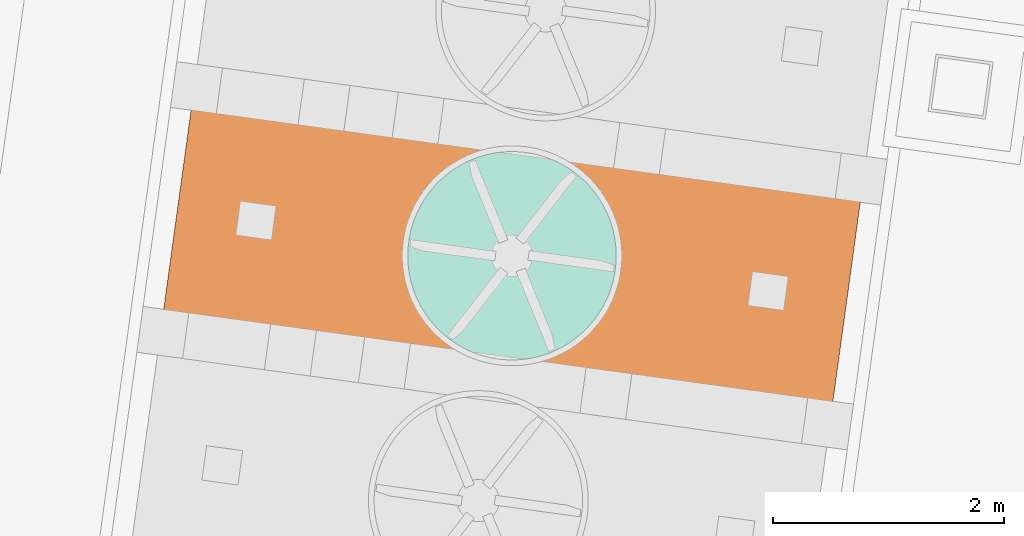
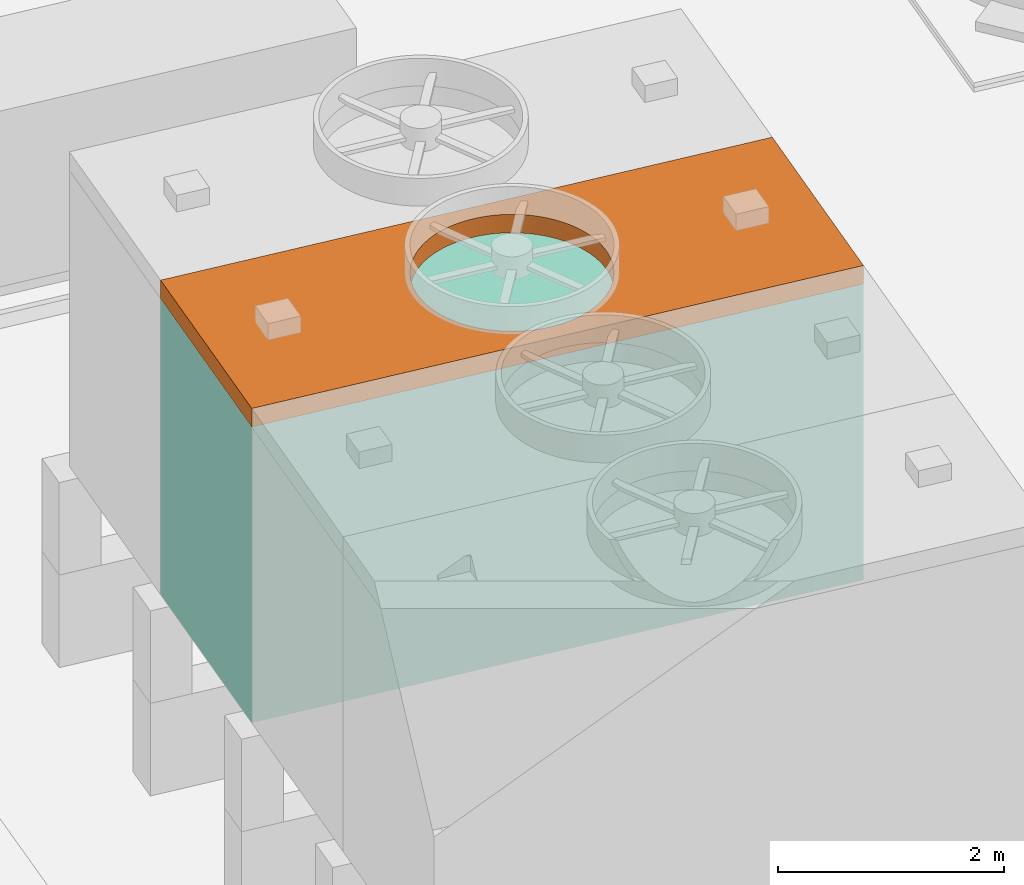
# Not in any storey, part 42 of 75: 1 proxy, plus 1 element that does not belong to this part.
"""IFC4 model written with IfcOpenShell, lengths in metres."""

from ifc_helpers import new_model, si_unit, direction, origin_with_axes, place, context, subcontext, project, spatial, triangles, element, aggregate, save


model = new_model("IFC4")

# Units and contexts
model_context = context("Model", 3, precision=1e-05, world=origin_with_axes(), true_north=direction((0.0, 1.0)))
body_context = subcontext(model_context, "Body", "Model", "MODEL_VIEW")
ifc_project = project(units=[si_unit("AREAUNIT", "SQUARE_METRE"), si_unit("VOLUMEUNIT", "CUBIC_METRE"), si_unit("LENGTHUNIT", "METRE")], contexts=[model_context])

# Site
site_placement = place(None, origin_with_axes())
site = spatial("IfcSite", under=ifc_project, at=site_placement, Name="Parcela industrial Jinhong")

# Cooling tower, proxy
cooling_tower_placement = place(site_placement, origin_with_axes())
cooling_tower = element("IfcCoolingTower", 1, at=cooling_tower_placement, inside=site, Name="Torre de refrigeración WT3001B · Envolvente del cuerpo de la torre", ObjectType="Envolvente de equipo", PredefinedType="USERDEFINED", context=body_context, shape_type="Tessellation", body=[
    triangles([(42.240363, 46.344292, 6.3), (36.736357, 49.261142, 6.3), (36.44488, 47.141085, 6.3), (36.736357, 49.261142, 3.1), (42.240363, 46.344292, 3.1), (36.44488, 47.141085, 3.1), (42.53184, 48.464349, 6.3), (42.53184, 48.464349, 3.1)], [[1, 2, 3], [4, 5, 6], [1, 7, 2], [5, 4, 8], [5, 8, 7], [5, 7, 1], [8, 4, 2], [7, 8, 2], [3, 4, 6], [4, 3, 2], [6, 5, 1], [3, 6, 1]], closed=True),
])
proxy_placement = place(cooling_tower_placement, origin_with_axes())
proxy = element("IfcBuildingElementProxy", 2, at=proxy_placement, Name="Torre de refrigeración WT3001B · Plataforma superior con hueco de ventilador", context=body_context, shape_type="Tessellation", body=[
    triangles([(38.598908, 47.954805, 6.5), (36.44488, 47.141085, 6.5), (38.594408, 47.925622, 6.5), (36.44488, 47.141085, 6.3), (38.598908, 47.954805, 6.3), (38.594408, 47.925622, 6.3), (38.590866, 47.896307, 6.5), (38.590866, 47.896307, 6.3), (36.736357, 49.261142, 6.5), (36.736357, 49.261142, 6.3), (38.588284, 47.866891, 6.5), (38.588284, 47.866891, 6.3), (38.604361, 47.983826, 6.5), (38.604361, 47.983826, 6.3), (38.586666, 47.837407, 6.5), (38.586666, 47.837407, 6.3), (38.61076, 48.012653, 6.5), (38.61076, 48.012653, 6.3), (38.586014, 47.807886, 6.5), (38.586014, 47.807886, 6.3), (38.618099, 48.041254, 6.5), (38.618099, 48.041254, 6.3), (38.586328, 47.77836, 6.5), (38.586328, 47.77836, 6.3), (38.626369, 48.069601, 6.5), (38.626369, 48.069601, 6.3), (38.587608, 47.748859, 6.5), (38.587608, 47.748859, 6.3), (38.635563, 48.097662, 6.5), (38.635563, 48.097662, 6.3), (38.589852, 47.719416, 6.5), (38.589852, 47.719416, 6.3), (38.64567, 48.125406, 6.5), (38.64567, 48.125406, 6.3), (38.593059, 47.690062, 6.5), (38.593059, 47.690062, 6.3), (38.656679, 48.152806, 6.5), (38.656679, 48.152806, 6.3), (38.597224, 47.660829, 6.5), (38.597224, 47.660829, 6.3), (38.668579, 48.17983, 6.5), (38.668579, 48.17983, 6.3), (38.602344, 47.631748, 6.5), (38.602344, 47.631748, 6.3), (38.681357, 48.206451, 6.5), (38.681357, 48.206451, 6.3), (38.608412, 47.60285, 6.5), (38.608412, 47.60285, 6.3), (38.694999, 48.232639, 6.5), (38.694999, 48.232639, 6.3), (38.615423, 47.574166, 6.5), (38.615423, 47.574166, 6.3), (38.70949, 48.258367, 6.5), (38.70949, 48.258367, 6.3), (38.623368, 47.545726, 6.5), (38.623368, 47.545726, 6.3), (38.724816, 48.283607, 6.5), (38.724816, 48.283607, 6.3), (38.63224, 47.517562, 6.5), (38.63224, 47.517562, 6.3), (38.740959, 48.308332, 6.5), (38.740959, 48.308332, 6.3), (38.642028, 47.489704, 6.5), (38.642028, 47.489704, 6.3), (38.757902, 48.332515, 6.5), (38.757902, 48.332515, 6.3), (38.652723, 47.46218, 6.5), (38.652723, 47.46218, 6.3), (38.775628, 48.356131, 6.5), (38.775628, 48.356131, 6.3), (38.664312, 47.435021, 6.5), (38.664312, 47.435021, 6.3), (38.794117, 48.379155, 6.5), (38.794117, 48.379155, 6.3), (38.676784, 47.408256, 6.5), (38.676784, 47.408256, 6.3), (38.813349, 48.401561, 6.5), (38.813349, 48.401561, 6.3), (38.690125, 47.381913, 6.5), (38.690125, 47.381913, 6.3), (38.833304, 48.423327, 6.5), (38.833304, 48.423327, 6.3), (38.704321, 47.356021, 6.5), (38.704321, 47.356021, 6.3), (38.85396, 48.444427, 6.5), (38.85396, 48.444427, 6.3), (38.719356, 47.330607, 6.5), (38.719356, 47.330607, 6.3), (38.875296, 48.46484, 6.5), (38.875296, 48.46484, 6.3), (38.735215, 47.305698, 6.5), (38.735215, 47.305698, 6.3), (38.897289, 48.484545, 6.5), (38.897289, 48.484545, 6.3), (38.75188, 47.281322, 6.5), (38.75188, 47.281322, 6.3), (38.919914, 48.503519, 6.5), (38.919914, 48.503519, 6.3), (38.769334, 47.257505, 6.5), (38.769334, 47.257505, 6.3), (38.943148, 48.521743, 6.5), (38.943148, 48.521743, 6.3), (38.787558, 47.234271, 6.5), (38.787558, 47.234271, 6.3), (38.966966, 48.539197, 6.5), (38.966966, 48.539197, 6.3), (38.806532, 47.211645, 6.5), (38.806532, 47.211645, 6.3), (38.991342, 48.555862, 6.5), (38.991342, 48.555862, 6.3), (38.826236, 47.189653, 6.5), (38.826236, 47.189653, 6.3), (39.01625, 48.571721, 6.5), (39.01625, 48.571721, 6.3), (38.84665, 47.168317, 6.5), (38.84665, 47.168317, 6.3), (39.041664, 48.586756, 6.5), (39.041664, 48.586756, 6.3), (38.86775, 47.147661, 6.5), (38.86775, 47.147661, 6.3), (39.067556, 48.600952, 6.5), (39.067556, 48.600952, 6.3), (38.889515, 47.127706, 6.5), (38.889515, 47.127706, 6.3), (39.093899, 48.614293, 6.5), (39.093899, 48.614293, 6.3), (38.911922, 47.108473, 6.5), (38.911922, 47.108473, 6.3), (39.120664, 48.626765, 6.5), (39.120664, 48.626765, 6.3), (38.934945, 47.089985, 6.5), (38.934945, 47.089985, 6.3), (39.147823, 48.638354, 6.5), (39.147823, 48.638354, 6.3), (38.958562, 47.072259, 6.5), (38.958562, 47.072259, 6.3), (39.175347, 48.649049, 6.5), (39.175347, 48.649049, 6.3), (38.982745, 47.055316, 6.5), (38.982745, 47.055316, 6.3), (39.203206, 48.658837, 6.5), (39.203206, 48.658837, 6.3), (39.00747, 47.039172, 6.5), (39.00747, 47.039172, 6.3), (39.23137, 48.667709, 6.5), (39.23137, 48.667709, 6.3), (39.03271, 47.023847, 6.5), (39.03271, 47.023847, 6.3), (39.259809, 48.675654, 6.5), (39.259809, 48.675654, 6.3), (39.058438, 47.009356, 6.5), (39.058438, 47.009356, 6.3), (39.288493, 48.682665, 6.5), (39.288493, 48.682665, 6.3), (39.084626, 46.995714, 6.5), (39.084626, 46.995714, 6.3), (39.317391, 48.688733, 6.5), (39.317391, 48.688733, 6.3), (39.111247, 46.982936, 6.5), (39.111247, 46.982936, 6.3), (39.346472, 48.693852, 6.5), (39.346472, 48.693852, 6.3), (39.138271, 46.971036, 6.5), (39.138271, 46.971036, 6.3), (39.375705, 48.698018, 6.5), (39.375705, 48.698018, 6.3), (39.16567, 46.960027, 6.5), (39.16567, 46.960027, 6.3), (39.405059, 48.701224, 6.5), (39.405059, 48.701224, 6.3), (39.193415, 46.94992, 6.5), (39.193415, 46.94992, 6.3), (39.434502, 48.703469, 6.5), (39.434502, 48.703469, 6.3), (39.221476, 46.940726, 6.5), (39.221476, 46.940726, 6.3), (39.464003, 48.704749, 6.5), (39.464003, 48.704749, 6.3), (39.249822, 46.932455, 6.5), (39.249822, 46.932455, 6.3), (39.493529, 48.705063, 6.5), (39.493529, 48.705063, 6.3), (39.278424, 46.925117, 6.5), (39.278424, 46.925117, 6.3), (39.523051, 48.70441, 6.5), (39.523051, 48.70441, 6.3), (39.307251, 46.918718, 6.5), (39.307251, 46.918718, 6.3), (39.552535, 48.702793, 6.5), (39.552535, 48.702793, 6.3), (39.336271, 46.913265, 6.5), (39.336271, 46.913265, 6.3), (42.53184, 48.464349, 6.5), (42.53184, 48.464349, 6.3), (39.365455, 46.908765, 6.5), (39.365455, 46.908765, 6.3), (39.58195, 48.700211, 6.5), (39.58195, 48.700211, 6.3), (39.39477, 46.905223, 6.5), (39.39477, 46.905223, 6.3), (39.611265, 48.696668, 6.5), (39.611265, 48.696668, 6.3), (39.424185, 46.902641, 6.5), (39.424185, 46.902641, 6.3), (39.640449, 48.692168, 6.5), (39.640449, 48.692168, 6.3), (42.240363, 46.344292, 6.5), (42.240363, 46.344292, 6.3), (39.669469, 48.686716, 6.5), (39.669469, 48.686716, 6.3), (39.453669, 46.901023, 6.5), (39.453669, 46.901023, 6.3), (39.698296, 48.680317, 6.5), (39.698296, 48.680317, 6.3), (39.48319, 46.900371, 6.5), (39.48319, 46.900371, 6.3), (39.726898, 48.672978, 6.5), (39.726898, 48.672978, 6.3), (39.512717, 46.900685, 6.5), (39.512717, 46.900685, 6.3), (39.755244, 48.664707, 6.5), (39.755244, 48.664707, 6.3), (39.542218, 46.901965, 6.5), (39.542218, 46.901965, 6.3), (39.783305, 48.655514, 6.5), (39.783305, 48.655514, 6.3), (39.571661, 46.904209, 6.5), (39.571661, 46.904209, 6.3), (39.81105, 48.645407, 6.5), (39.81105, 48.645407, 6.3), (39.601014, 46.907416, 6.5), (39.601014, 46.907416, 6.3), (39.838449, 48.634397, 6.5), (39.838449, 48.634397, 6.3), (39.630248, 46.911581, 6.5), (39.630248, 46.911581, 6.3), (39.865473, 48.622498, 6.5), (39.865473, 48.622498, 6.3), (39.659329, 46.916701, 6.5), (39.659329, 46.916701, 6.3), (39.892094, 48.60972, 6.5), (39.892094, 48.60972, 6.3), (39.688227, 46.922769, 6.5), (39.688227, 46.922769, 6.3), (39.918282, 48.596078, 6.5), (39.918282, 48.596078, 6.3), (39.716911, 46.929779, 6.5), (39.716911, 46.929779, 6.3), (39.94401, 48.581587, 6.5), (39.94401, 48.581587, 6.3), (39.74535, 46.937725, 6.5), (39.74535, 46.937725, 6.3), (39.96925, 48.566261, 6.5), (39.96925, 48.566261, 6.3), (39.773514, 46.946596, 6.5), (39.773514, 46.946596, 6.3), (39.993975, 48.550118, 6.5), (39.993975, 48.550118, 6.3), (39.801373, 46.956385, 6.5), (39.801373, 46.956385, 6.3), (40.018158, 48.533175, 6.5), (40.018158, 48.533175, 6.3), (39.828897, 46.967079, 6.5), (39.828897, 46.967079, 6.3), (40.041775, 48.515449, 6.5), (40.041775, 48.515449, 6.3), (39.856056, 46.978669, 6.5), (39.856056, 46.978669, 6.3), (40.064798, 48.49696, 6.5), (40.064798, 48.49696, 6.3), (39.882821, 46.991141, 6.5), (39.882821, 46.991141, 6.3), (40.087205, 48.477728, 6.5), (40.087205, 48.477728, 6.3), (39.909164, 47.004482, 6.5), (39.909164, 47.004482, 6.3), (40.10897, 48.457773, 6.5), (40.10897, 48.457773, 6.3), (39.935056, 47.018677, 6.5), (39.935056, 47.018677, 6.3), (40.13007, 48.437116, 6.5), (40.13007, 48.437116, 6.3), (39.96047, 47.033713, 6.5), (39.96047, 47.033713, 6.3), (39.985378, 47.049571, 6.5), (39.985378, 47.049571, 6.3), (40.150484, 48.41578, 6.5), (40.150484, 48.41578, 6.3), (40.009754, 47.066237, 6.5), (40.009754, 47.066237, 6.3), (40.170188, 48.393788, 6.5), (40.170188, 48.393788, 6.3), (40.033572, 47.083691, 6.5), (40.033572, 47.083691, 6.3), (40.189162, 48.371163, 6.5), (40.189162, 48.371163, 6.3), (40.056806, 47.101914, 6.5), (40.056806, 47.101914, 6.3), (40.207386, 48.347929, 6.5), (40.207386, 48.347929, 6.3), (40.079431, 47.120889, 6.5), (40.079431, 47.120889, 6.3), (40.22484, 48.324111, 6.5), (40.22484, 48.324111, 6.3), (40.101424, 47.140593, 6.5), (40.101424, 47.140593, 6.3), (40.241505, 48.299735, 6.5), (40.241505, 48.299735, 6.3), (40.12276, 47.161006, 6.5), (40.12276, 47.161006, 6.3), (40.257364, 48.274827, 6.5), (40.257364, 48.274827, 6.3), (40.143416, 47.182107, 6.5), (40.143416, 47.182107, 6.3), (40.272399, 48.249413, 6.5), (40.272399, 48.249413, 6.3), (40.163371, 47.203872, 6.5), (40.163371, 47.203872, 6.3), (40.286595, 48.223521, 6.5), (40.286595, 48.223521, 6.3), (40.182603, 47.226278, 6.5), (40.182603, 47.226278, 6.3), (40.299936, 48.197178, 6.5), (40.299936, 48.197178, 6.3), (40.201092, 47.249302, 6.5), (40.201092, 47.249302, 6.3), (40.312408, 48.170413, 6.5), (40.312408, 48.170413, 6.3), (40.218818, 47.272918, 6.5), (40.218818, 47.272918, 6.3), (40.323997, 48.143254, 6.5), (40.323997, 48.143254, 6.3), (40.235761, 47.297102, 6.5), (40.235761, 47.297102, 6.3), (40.334692, 48.11573, 6.5), (40.334692, 48.11573, 6.3), (40.251904, 47.321827, 6.5), (40.251904, 47.321827, 6.3), (40.34448, 48.087871, 6.5), (40.34448, 48.087871, 6.3), (40.26723, 47.347067, 6.5), (40.26723, 47.347067, 6.3), (40.353352, 48.059707, 6.5), (40.353352, 48.059707, 6.3), (40.281721, 47.372795, 6.5), (40.281721, 47.372795, 6.3), (40.361297, 48.031268, 6.5), (40.361297, 48.031268, 6.3), (40.295363, 47.398983, 6.5), (40.295363, 47.398983, 6.3), (40.368308, 48.002584, 6.5), (40.368308, 48.002584, 6.3), (40.308141, 47.425603, 6.5), (40.308141, 47.425603, 6.3), (40.374376, 47.973686, 6.5), (40.374376, 47.973686, 6.3), (40.320041, 47.452628, 6.5), (40.320041, 47.452628, 6.3), (40.379496, 47.944604, 6.5), (40.379496, 47.944604, 6.3), (40.33105, 47.480027, 6.5), (40.33105, 47.480027, 6.3), (40.383661, 47.915371, 6.5), (40.383661, 47.915371, 6.3), (40.341157, 47.507772, 6.5), (40.341157, 47.507772, 6.3), (40.386868, 47.886017, 6.5), (40.386868, 47.886017, 6.3), (40.350351, 47.535833, 6.5), (40.350351, 47.535833, 6.3), (40.389112, 47.856575, 6.5), (40.389112, 47.856575, 6.3), (40.358621, 47.564179, 6.5), (40.358621, 47.564179, 6.3), (40.390392, 47.827074, 6.5), (40.390392, 47.827074, 6.3), (40.36596, 47.592781, 6.5), (40.36596, 47.592781, 6.3), (40.390706, 47.797547, 6.5), (40.390706, 47.797547, 6.3), (40.372359, 47.621608, 6.5), (40.372359, 47.621608, 6.3), (40.390054, 47.768026, 6.5), (40.390054, 47.768026, 6.3), (40.377811, 47.650628, 6.5), (40.377811, 47.650628, 6.3), (40.388436, 47.738542, 6.5), (40.388436, 47.738542, 6.3), (40.382311, 47.679812, 6.5), (40.382311, 47.679812, 6.3), (40.385854, 47.709127, 6.5), (40.385854, 47.709127, 6.3)], [[1, 2, 3], [4, 5, 6], [7, 3, 2], [8, 4, 6], [2, 1, 9], [10, 5, 4], [11, 7, 2], [4, 8, 12], [1, 13, 9], [10, 14, 5], [15, 11, 2], [4, 12, 16], [13, 17, 9], [14, 10, 18], [19, 15, 2], [4, 16, 20], [17, 21, 9], [18, 10, 22], [23, 19, 2], [4, 20, 24], [21, 25, 9], [22, 10, 26], [27, 23, 2], [4, 24, 28], [25, 29, 9], [26, 10, 30], [31, 27, 2], [4, 28, 32], [29, 33, 9], [30, 10, 34], [35, 31, 2], [4, 32, 36], [33, 37, 9], [34, 10, 38], [39, 35, 2], [4, 36, 40], [37, 41, 9], [38, 10, 42], [43, 39, 2], [4, 40, 44], [41, 45, 9], [42, 10, 46], [47, 43, 2], [4, 44, 48], [45, 49, 9], [46, 10, 50], [51, 47, 2], [4, 48, 52], [49, 53, 9], [50, 10, 54], [55, 51, 2], [4, 52, 56], [53, 57, 9], [54, 10, 58], [59, 55, 2], [4, 56, 60], [57, 61, 9], [58, 10, 62], [63, 59, 2], [4, 60, 64], [61, 65, 9], [62, 10, 66], [67, 63, 2], [4, 64, 68], [65, 69, 9], [66, 10, 70], [71, 67, 2], [4, 68, 72], [69, 73, 9], [70, 10, 74], [75, 71, 2], [4, 72, 76], [73, 77, 9], [74, 10, 78], [79, 75, 2], [4, 76, 80], [77, 81, 9], [78, 10, 82], [83, 79, 2], [4, 80, 84], [81, 85, 9], [82, 10, 86], [87, 83, 2], [4, 84, 88], [85, 89, 9], [86, 10, 90], [91, 87, 2], [4, 88, 92], [89, 93, 9], [90, 10, 94], [95, 91, 2], [4, 92, 96], [93, 97, 9], [94, 10, 98], [99, 95, 2], [4, 96, 100], [97, 101, 9], [98, 10, 102], [103, 99, 2], [4, 100, 104], [101, 105, 9], [102, 10, 106], [107, 103, 2], [4, 104, 108], [105, 109, 9], [106, 10, 110], [111, 107, 2], [4, 108, 112], [109, 113, 9], [110, 10, 114], [115, 111, 2], [4, 112, 116], [113, 117, 9], [114, 10, 118], [119, 115, 2], [4, 116, 120], [117, 121, 9], [118, 10, 122], [123, 119, 2], [4, 120, 124], [121, 125, 9], [122, 10, 126], [127, 123, 2], [4, 124, 128], [125, 129, 9], [126, 10, 130], [131, 127, 2], [4, 128, 132], [129, 133, 9], [130, 10, 134], [135, 131, 2], [4, 132, 136], [133, 137, 9], [134, 10, 138], [139, 135, 2], [4, 136, 140], [137, 141, 9], [138, 10, 142], [143, 139, 2], [4, 140, 144], [141, 145, 9], [142, 10, 146], [147, 143, 2], [4, 144, 148], [145, 149, 9], [146, 10, 150], [151, 147, 2], [4, 148, 152], [149, 153, 9], [150, 10, 154], [155, 151, 2], [4, 152, 156], [153, 157, 9], [154, 10, 158], [159, 155, 2], [4, 156, 160], [157, 161, 9], [158, 10, 162], [163, 159, 2], [4, 160, 164], [161, 165, 9], [162, 10, 166], [167, 163, 2], [4, 164, 168], [165, 169, 9], [166, 10, 170], [171, 167, 2], [4, 168, 172], [169, 173, 9], [170, 10, 174], [175, 171, 2], [4, 172, 176], [173, 177, 9], [174, 10, 178], [179, 175, 2], [4, 176, 180], [177, 181, 9], [178, 10, 182], [183, 179, 2], [4, 180, 184], [181, 185, 9], [182, 10, 186], [187, 183, 2], [4, 184, 188], [185, 189, 9], [186, 10, 190], [191, 187, 2], [4, 188, 192], [189, 193, 9], [190, 10, 194], [191, 2, 195], [192, 196, 4], [193, 189, 197], [198, 190, 194], [195, 2, 199], [196, 200, 4], [193, 197, 201], [202, 198, 194], [199, 2, 203], [200, 204, 4], [193, 201, 205], [206, 202, 194], [203, 2, 207], [204, 208, 4], [193, 205, 209], [210, 206, 194], [211, 203, 207], [208, 204, 212], [193, 209, 213], [214, 210, 194], [215, 211, 207], [208, 212, 216], [193, 213, 217], [218, 214, 194], [219, 215, 207], [208, 216, 220], [193, 217, 221], [222, 218, 194], [207, 223, 219], [220, 224, 208], [193, 221, 225], [226, 222, 194], [207, 227, 223], [224, 228, 208], [193, 225, 229], [230, 226, 194], [207, 231, 227], [228, 232, 208], [193, 229, 233], [234, 230, 194], [207, 235, 231], [232, 236, 208], [193, 233, 237], [238, 234, 194], [207, 239, 235], [236, 240, 208], [193, 237, 241], [242, 238, 194], [207, 243, 239], [240, 244, 208], [193, 241, 245], [246, 242, 194], [207, 247, 243], [244, 248, 208], [193, 245, 249], [250, 246, 194], [207, 251, 247], [248, 252, 208], [193, 249, 253], [254, 250, 194], [207, 255, 251], [252, 256, 208], [193, 253, 257], [258, 254, 194], [207, 259, 255], [256, 260, 208], [193, 257, 261], [262, 258, 194], [207, 263, 259], [260, 264, 208], [193, 261, 265], [266, 262, 194], [207, 267, 263], [264, 268, 208], [193, 265, 269], [270, 266, 194], [207, 271, 267], [268, 272, 208], [193, 269, 273], [274, 270, 194], [207, 275, 271], [272, 276, 208], [193, 273, 277], [278, 274, 194], [207, 279, 275], [276, 280, 208], [193, 277, 281], [282, 278, 194], [207, 283, 279], [280, 284, 208], [207, 193, 281], [208, 282, 194], [207, 285, 283], [284, 286, 208], [207, 281, 287], [288, 282, 208], [207, 289, 285], [286, 290, 208], [207, 287, 291], [292, 288, 208], [207, 293, 289], [290, 294, 208], [207, 291, 295], [296, 292, 208], [207, 297, 293], [294, 298, 208], [207, 295, 299], [300, 296, 208], [207, 301, 297], [298, 302, 208], [207, 299, 303], [304, 300, 208], [207, 305, 301], [302, 306, 208], [207, 303, 307], [308, 304, 208], [207, 309, 305], [306, 310, 208], [207, 307, 311], [312, 308, 208], [309, 207, 313], [310, 314, 208], [207, 311, 315], [316, 312, 208], [313, 207, 317], [314, 318, 208], [207, 315, 319], [320, 316, 208], [317, 207, 321], [318, 322, 208], [207, 319, 323], [324, 320, 208], [321, 207, 325], [322, 326, 208], [207, 323, 327], [328, 324, 208], [325, 207, 329], [326, 330, 208], [207, 327, 331], [332, 328, 208], [329, 207, 333], [330, 334, 208], [207, 331, 335], [336, 332, 208], [333, 207, 337], [334, 338, 208], [207, 335, 339], [340, 336, 208], [337, 207, 341], [338, 342, 208], [207, 339, 343], [344, 340, 208], [341, 207, 345], [342, 346, 208], [207, 343, 347], [348, 344, 208], [345, 207, 349], [346, 350, 208], [207, 347, 351], [352, 348, 208], [349, 207, 353], [350, 354, 208], [207, 351, 355], [356, 352, 208], [353, 207, 357], [354, 358, 208], [207, 355, 359], [360, 356, 208], [357, 207, 361], [358, 362, 208], [207, 359, 363], [364, 360, 208], [361, 207, 365], [362, 366, 208], [207, 363, 367], [368, 364, 208], [365, 207, 369], [366, 370, 208], [207, 367, 371], [372, 368, 208], [369, 207, 373], [370, 374, 208], [207, 371, 375], [376, 372, 208], [373, 207, 377], [374, 378, 208], [207, 375, 379], [380, 376, 208], [377, 207, 381], [378, 382, 208], [207, 379, 383], [384, 380, 208], [381, 207, 385], [382, 386, 208], [207, 383, 387], [388, 384, 208], [385, 207, 389], [386, 390, 208], [207, 387, 391], [392, 388, 208], [389, 207, 391], [390, 392, 208], [207, 4, 208], [4, 207, 2], [194, 193, 208], [208, 193, 207], [194, 10, 9], [193, 194, 9], [4, 2, 10], [10, 2, 9], [392, 390, 389], [392, 389, 391], [390, 386, 385], [390, 385, 389], [386, 382, 381], [386, 381, 385], [382, 378, 377], [382, 377, 381], [378, 374, 373], [378, 373, 377], [374, 370, 369], [374, 369, 373], [370, 366, 365], [370, 365, 369], [366, 362, 361], [366, 361, 365], [362, 358, 357], [362, 357, 361], [358, 354, 353], [358, 353, 357], [354, 350, 349], [354, 349, 353], [350, 346, 345], [350, 345, 349], [346, 342, 341], [346, 341, 345], [342, 338, 337], [342, 337, 341], [338, 334, 333], [338, 333, 337], [334, 330, 329], [334, 329, 333], [330, 326, 325], [330, 325, 329], [326, 322, 321], [326, 321, 325], [322, 318, 317], [322, 317, 321], [318, 314, 313], [318, 313, 317], [314, 310, 309], [314, 309, 313], [310, 306, 305], [310, 305, 309], [306, 302, 301], [306, 301, 305], [302, 298, 297], [302, 297, 301], [298, 294, 293], [298, 293, 297], [294, 290, 289], [294, 289, 293], [290, 286, 285], [290, 285, 289], [286, 284, 283], [286, 283, 285], [284, 280, 279], [284, 279, 283], [280, 276, 275], [280, 275, 279], [276, 272, 271], [276, 271, 275], [272, 268, 267], [272, 267, 271], [268, 264, 263], [268, 263, 267], [264, 260, 259], [264, 259, 263], [260, 256, 255], [260, 255, 259], [256, 252, 251], [256, 251, 255], [252, 248, 247], [252, 247, 251], [248, 244, 243], [248, 243, 247], [244, 240, 239], [244, 239, 243], [240, 236, 235], [240, 235, 239], [236, 232, 231], [236, 231, 235], [232, 228, 227], [232, 227, 231], [228, 224, 223], [228, 223, 227], [224, 220, 219], [224, 219, 223], [220, 216, 215], [220, 215, 219], [216, 212, 211], [216, 211, 215], [212, 204, 203], [212, 203, 211], [204, 200, 199], [204, 199, 203], [200, 196, 195], [200, 195, 199], [196, 192, 191], [196, 191, 195], [192, 188, 187], [192, 187, 191], [188, 184, 183], [188, 183, 187], [184, 180, 179], [184, 179, 183], [180, 176, 175], [180, 175, 179], [176, 172, 171], [176, 171, 175], [172, 168, 167], [172, 167, 171], [168, 164, 163], [168, 163, 167], [164, 160, 159], [164, 159, 163], [160, 156, 155], [160, 155, 159], [156, 152, 151], [156, 151, 155], [152, 148, 147], [152, 147, 151], [148, 144, 143], [148, 143, 147], [144, 140, 139], [144, 139, 143], [140, 136, 135], [140, 135, 139], [136, 132, 131], [136, 131, 135], [132, 128, 127], [132, 127, 131], [128, 124, 123], [128, 123, 127], [124, 120, 119], [124, 119, 123], [120, 116, 115], [120, 115, 119], [116, 112, 111], [116, 111, 115], [112, 108, 107], [112, 107, 111], [108, 104, 103], [108, 103, 107], [104, 100, 99], [104, 99, 103], [100, 96, 95], [100, 95, 99], [96, 92, 91], [96, 91, 95], [92, 88, 87], [92, 87, 91], [88, 84, 83], [88, 83, 87], [84, 80, 79], [84, 79, 83], [80, 76, 75], [80, 75, 79], [76, 72, 71], [76, 71, 75], [72, 68, 67], [72, 67, 71], [68, 64, 63], [68, 63, 67], [64, 60, 59], [64, 59, 63], [60, 56, 55], [60, 55, 59], [56, 52, 51], [56, 51, 55], [52, 48, 47], [52, 47, 51], [48, 44, 43], [48, 43, 47], [44, 40, 39], [44, 39, 43], [40, 36, 35], [40, 35, 39], [36, 32, 31], [36, 31, 35], [32, 28, 27], [32, 27, 31], [28, 24, 23], [28, 23, 27], [24, 20, 19], [24, 19, 23], [20, 16, 15], [20, 15, 19], [16, 12, 11], [16, 11, 15], [12, 8, 7], [12, 7, 11], [8, 6, 3], [8, 3, 7], [6, 5, 1], [1, 3, 6], [5, 14, 13], [5, 13, 1], [14, 18, 17], [14, 17, 13], [18, 22, 21], [18, 21, 17], [22, 26, 25], [22, 25, 21], [26, 30, 29], [26, 29, 25], [30, 34, 33], [30, 33, 29], [34, 38, 37], [34, 37, 33], [38, 42, 41], [38, 41, 37], [42, 46, 45], [42, 45, 41], [46, 50, 49], [46, 49, 45], [50, 54, 53], [50, 53, 49], [54, 58, 57], [54, 57, 53], [58, 62, 61], [58, 61, 57], [62, 66, 65], [62, 65, 61], [66, 70, 69], [66, 69, 65], [70, 74, 73], [70, 73, 69], [74, 78, 77], [74, 77, 73], [78, 82, 81], [78, 81, 77], [82, 86, 85], [82, 85, 81], [89, 86, 90], [89, 85, 86], [93, 90, 94], [93, 89, 90], [97, 94, 98], [97, 93, 94], [101, 98, 102], [101, 97, 98], [105, 102, 106], [105, 101, 102], [109, 106, 110], [109, 105, 106], [113, 110, 114], [113, 109, 110], [117, 114, 118], [117, 113, 114], [121, 118, 122], [121, 117, 118], [125, 122, 126], [125, 121, 122], [129, 126, 130], [129, 125, 126], [133, 130, 134], [133, 129, 130], [137, 134, 138], [137, 133, 134], [141, 138, 142], [141, 137, 138], [145, 142, 146], [145, 141, 142], [149, 146, 150], [149, 145, 146], [153, 150, 154], [153, 149, 150], [157, 154, 158], [157, 153, 154], [161, 158, 162], [161, 157, 158], [165, 162, 166], [165, 161, 162], [169, 166, 170], [169, 165, 166], [173, 170, 174], [173, 169, 170], [177, 174, 178], [177, 173, 174], [181, 178, 182], [181, 177, 178], [185, 182, 186], [185, 181, 182], [189, 186, 190], [189, 185, 186], [197, 190, 198], [197, 189, 190], [201, 198, 202], [201, 197, 198], [205, 202, 206], [205, 201, 202], [209, 206, 210], [209, 205, 206], [213, 210, 214], [213, 209, 210], [217, 214, 218], [217, 213, 214], [221, 218, 222], [221, 217, 218], [225, 222, 226], [225, 221, 222], [229, 226, 230], [229, 225, 226], [233, 230, 234], [233, 229, 230], [237, 234, 238], [237, 233, 234], [241, 238, 242], [241, 237, 238], [245, 242, 246], [245, 241, 242], [249, 246, 250], [249, 245, 246], [253, 250, 254], [253, 249, 250], [257, 254, 258], [257, 253, 254], [261, 258, 262], [261, 257, 258], [265, 262, 266], [265, 261, 262], [269, 266, 270], [269, 265, 266], [273, 270, 274], [273, 269, 270], [277, 274, 278], [277, 273, 274], [281, 278, 282], [281, 277, 278], [282, 288, 287], [282, 287, 281], [288, 292, 291], [288, 291, 287], [292, 296, 295], [292, 295, 291], [296, 300, 299], [296, 299, 295], [300, 304, 303], [300, 303, 299], [304, 308, 307], [304, 307, 303], [308, 312, 311], [308, 311, 307], [312, 316, 315], [312, 315, 311], [316, 320, 319], [316, 319, 315], [320, 324, 323], [320, 323, 319], [324, 328, 327], [324, 327, 323], [328, 332, 331], [328, 331, 327], [332, 336, 335], [332, 335, 331], [336, 340, 339], [336, 339, 335], [340, 344, 343], [340, 343, 339], [344, 348, 347], [344, 347, 343], [348, 352, 351], [348, 351, 347], [352, 356, 355], [352, 355, 351], [356, 360, 359], [356, 359, 355], [360, 364, 363], [360, 363, 359], [364, 368, 367], [364, 367, 363], [368, 372, 371], [368, 371, 367], [372, 376, 375], [372, 375, 371], [376, 380, 379], [376, 379, 375], [380, 384, 383], [380, 383, 379], [384, 388, 387], [384, 387, 383], [388, 392, 391], [388, 391, 387]], closed=True),
])
aggregate(cooling_tower, [proxy])

save(model, "model.ifc")
